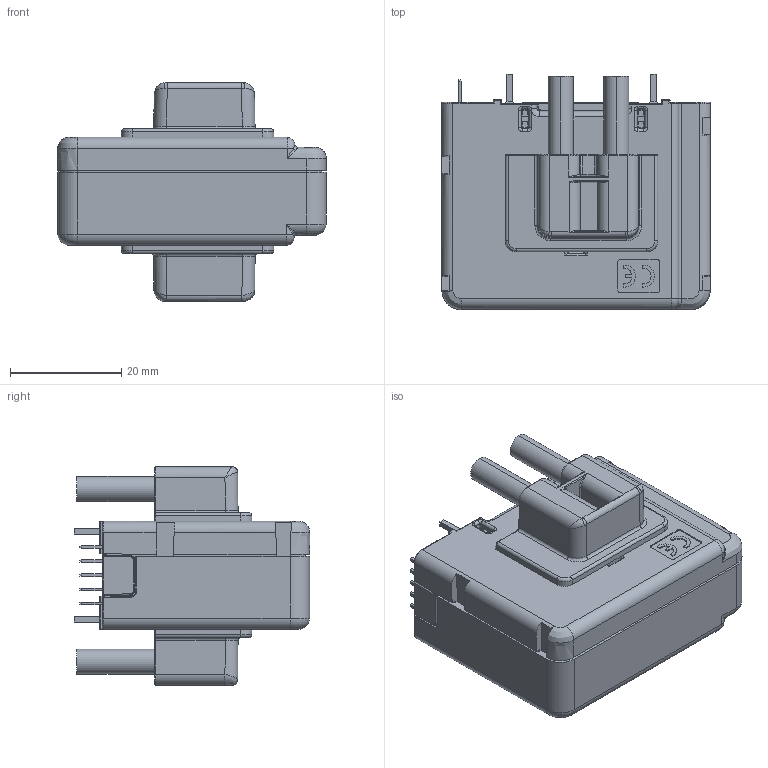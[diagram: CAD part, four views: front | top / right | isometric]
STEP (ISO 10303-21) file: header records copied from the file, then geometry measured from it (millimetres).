
FILE_DESCRIPTION(('Creo Elements/Direct Modeling STEP Export'),'2;1');
FILE_NAME('BBox_LZSR-XXX-TP_20200107.stp','2020-01-08T15:46:56',(''),(''),'Creo Elements/Direct Modeling STEP processor for AP214 (Solid Model)','Creo Elements/Direct Modeling 20.1 10-Mar-2018 (C) Parametric Technology GmbH','');
FILE_SCHEMA(('AUTOMOTIVE_DESIGN { 1 0 10303 214 1 1 1 1 }'));
Products named in the file (2): Bbox.B
Assembly tree (1 placements, depth 2):
  Bbox.B
    Bbox.B
Bounding box: 48.2 x 42.25 x 39.25 mm (x, y, z)
Volume: 39406.6 mm3; surface area: 9718.6 mm2
Topology: 1 solids, 1 shells, 841 faces, 2084 edges, 1225 vertices
Faces by surface type: cylinder 321, plane 305, bspline 128, torus 55, sphere 32
Entity records: 39691 total; most frequent: CARTESIAN_POINT 21026, ORIENTED_EDGE 4072, DIRECTION 3320, EDGE_CURVE 2036, VERTEX_POINT 1225, AXIS2_PLACEMENT_3D 1124, VECTOR 1072, LINE 1072
